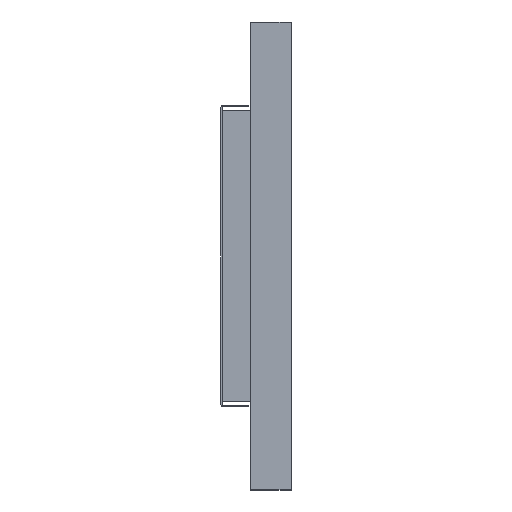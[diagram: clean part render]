
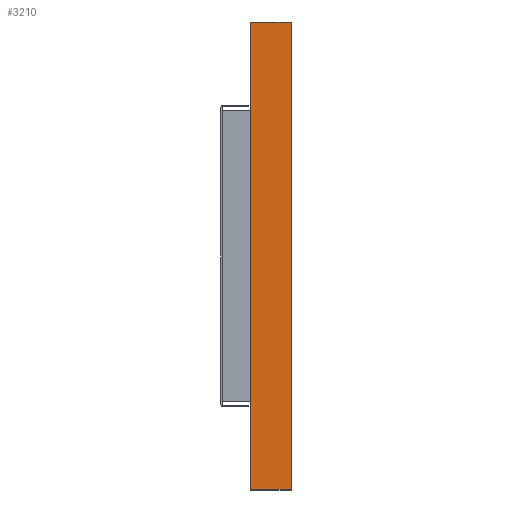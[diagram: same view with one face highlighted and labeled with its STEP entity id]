
A CAD part, left-side view. The second image highlights one B-rep face of the part: STEP entity #3210.
In plain terms, the highlighted planar face has unit normal (-1, 0, 0).
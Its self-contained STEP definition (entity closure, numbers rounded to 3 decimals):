
#15 = CARTESIAN_POINT ( 'NONE',  ( -258.592, -7.233, -22. ) ) ;
#33 = VECTOR ( 'NONE', #2265, 1000. ) ;
#74 = EDGE_CURVE ( 'NONE', #831, #2494, #417, .T. ) ;
#131 = CARTESIAN_POINT ( 'NONE',  ( -258.592, -12.233, -22. ) ) ;
#152 = AXIS2_PLACEMENT_3D ( 'NONE', #3110, #2039, #1145 ) ;
#352 = LINE ( 'NONE', #1513, #33 ) ;
#417 = LINE ( 'NONE', #2705, #2398 ) ;
#494 = EDGE_CURVE ( 'NONE', #2617, #831, #352, .T. ) ;
#706 = DIRECTION ( 'NONE',  ( 0., -1., 0. ) ) ;
#707 = DIRECTION ( 'NONE',  ( 0., 0., 1. ) ) ;
#753 = VECTOR ( 'NONE', #707, 1000. ) ;
#828 = CARTESIAN_POINT ( 'NONE',  ( -258.592, -7.233, 36. ) ) ;
#831 = VERTEX_POINT ( 'NONE', #828 ) ;
#922 = PLANE ( 'NONE',  #152 ) ;
#1145 = DIRECTION ( 'NONE',  ( 0., 0., -1. ) ) ;
#1301 = DIRECTION ( 'NONE',  ( 0., -1., 0. ) ) ;
#1417 = ORIENTED_EDGE ( 'NONE', *, *, #2386, .T. ) ;
#1440 = CARTESIAN_POINT ( 'NONE',  ( -258.592, -12.233, -22. ) ) ;
#1511 = EDGE_LOOP ( 'NONE', ( #1417, #1735, #1838, #2137 ) ) ;
#1513 = CARTESIAN_POINT ( 'NONE',  ( -258.592, -7.233, -22. ) ) ;
#1735 = ORIENTED_EDGE ( 'NONE', *, *, #74, .F. ) ;
#1838 = ORIENTED_EDGE ( 'NONE', *, *, #494, .F. ) ;
#2039 = DIRECTION ( 'NONE',  ( 1., 0., 0. ) ) ;
#2137 = ORIENTED_EDGE ( 'NONE', *, *, #3637, .T. ) ;
#2248 = FACE_OUTER_BOUND ( 'NONE', #1511, .T. ) ;
#2265 = DIRECTION ( 'NONE',  ( 0., 0., 1. ) ) ;
#2386 = EDGE_CURVE ( 'NONE', #3135, #2494, #2937, .T. ) ;
#2387 = LINE ( 'NONE', #3473, #3278 ) ;
#2398 = VECTOR ( 'NONE', #1301, 1000. ) ;
#2494 = VERTEX_POINT ( 'NONE', #2711 ) ;
#2617 = VERTEX_POINT ( 'NONE', #15 ) ;
#2705 = CARTESIAN_POINT ( 'NONE',  ( -258.592, -7.233, 36. ) ) ;
#2711 = CARTESIAN_POINT ( 'NONE',  ( -258.592, -12.233, 36. ) ) ;
#2937 = LINE ( 'NONE', #131, #753 ) ;
#3110 = CARTESIAN_POINT ( 'NONE',  ( -258.592, -7.233, -22. ) ) ;
#3135 = VERTEX_POINT ( 'NONE', #1440 ) ;
#3210 = ADVANCED_FACE ( 'NONE', ( #2248 ), #922, .F. ) ;
#3278 = VECTOR ( 'NONE', #706, 1000. ) ;
#3473 = CARTESIAN_POINT ( 'NONE',  ( -258.592, -7.233, -22. ) ) ;
#3637 = EDGE_CURVE ( 'NONE', #2617, #3135, #2387, .T. ) ;
